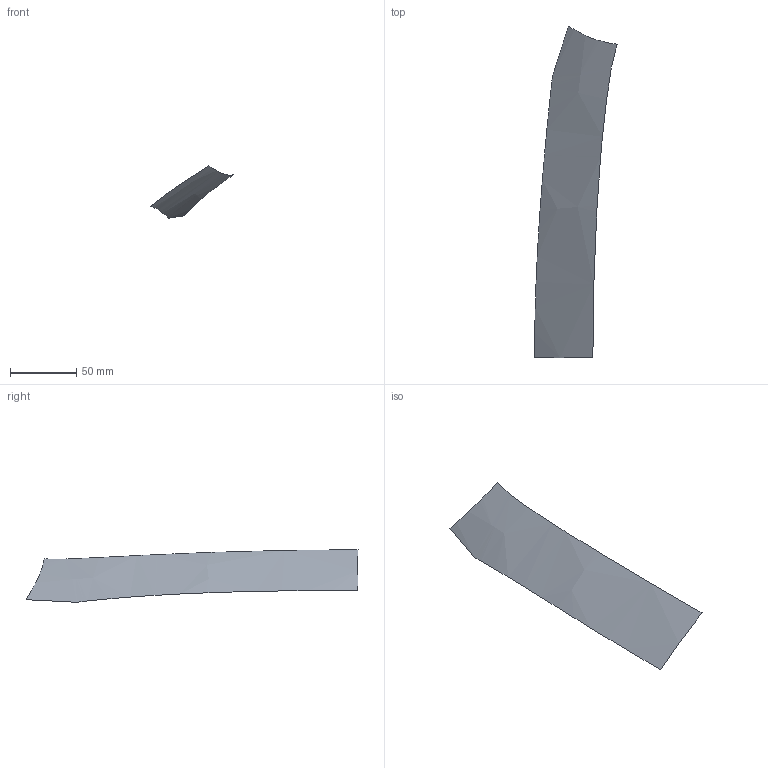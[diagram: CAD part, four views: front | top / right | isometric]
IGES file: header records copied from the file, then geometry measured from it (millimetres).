
Start section: START RECORD GO HERE
Global section: file name: s15.igs; native system: IBM CATIA IGES - CATIA SOLUTIONS V4RELEASE 1.9 REFRESH 01; preprocessor: CATIA SOLUTIONS V4RELEASE 1.9 REFRESH 01; author: cky; date: 990510.133752; units: millimetre
Bounding box: 62.57 x 250.74 x 39.68 mm (x, y, z)
Surface area: 12915.3 mm2 (no closed solid volume)
Topology: 0 solids, 0 shells, 1 faces, 38 edges, 38 vertices
Faces by surface type: bspline 1
